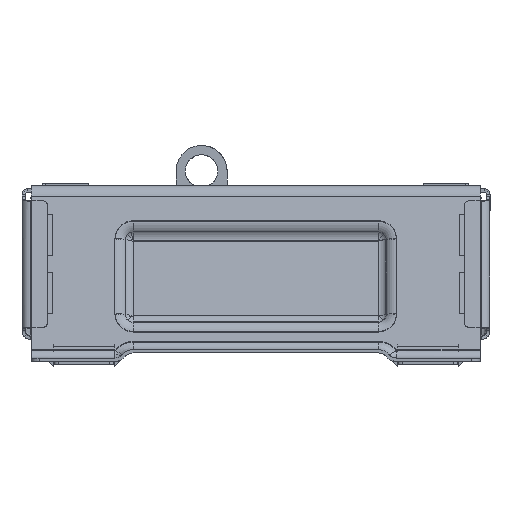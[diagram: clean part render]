
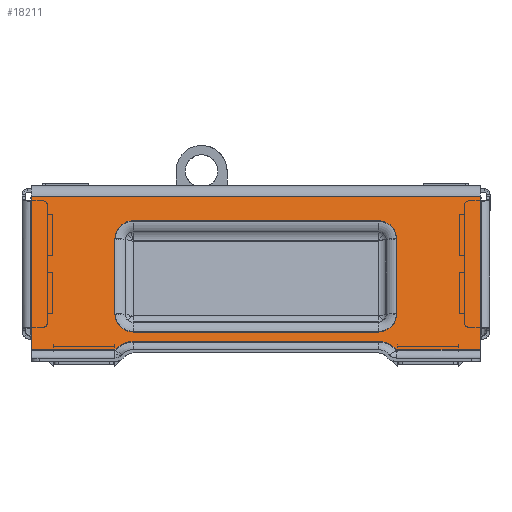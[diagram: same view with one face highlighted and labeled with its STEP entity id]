
A CAD part, left-side view. The second image highlights one B-rep face of the part: STEP entity #18211.
In plain terms, the highlighted planar face has unit normal (-0.979, 0, 0.203).
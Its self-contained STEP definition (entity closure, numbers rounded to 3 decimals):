
#18133=AXIS2_PLACEMENT_3D('Plane Axis2P3D',#18130,#18131,#18132) ;
#18156=AXIS2_PLACEMENT_3D('Circle Axis2P3D',#18154,#18155,$) ;
#18170=AXIS2_PLACEMENT_3D('Circle Axis2P3D',#18168,#18169,$) ;
#18184=AXIS2_PLACEMENT_3D('Circle Axis2P3D',#18182,#18183,$) ;
#18198=AXIS2_PLACEMENT_3D('Circle Axis2P3D',#18196,#18197,$) ;
#16675=CARTESIAN_POINT('Vertex',(-493.009,-526.85,9.683)) ;
#16678=CARTESIAN_POINT('Line Origine',(-483.653,-526.85,54.853)) ;
#16682=CARTESIAN_POINT('Vertex',(-474.296,-526.85,100.023)) ;
#17123=CARTESIAN_POINT('Vertex',(-474.296,-790.85,100.023)) ;
#17126=CARTESIAN_POINT('Line Origine',(-483.653,-790.85,54.853)) ;
#17130=CARTESIAN_POINT('Vertex',(-493.009,-790.85,9.683)) ;
#17451=CARTESIAN_POINT('Vertex',(-493.009,-576.127,9.683)) ;
#17616=CARTESIAN_POINT('Vertex',(-493.009,-741.574,9.683)) ;
#17893=CARTESIAN_POINT('Line Origine',(-493.009,-658.85,9.683)) ;
#17962=CARTESIAN_POINT('Control Point',(-491.974,-586.85,14.683)) ;
#17963=CARTESIAN_POINT('Control Point',(-491.974,-584.39,14.683)) ;
#17964=CARTESIAN_POINT('Control Point',(-492.086,-581.93,14.143)) ;
#17965=CARTESIAN_POINT('Control Point',(-492.31,-579.641,13.06)) ;
#17966=CARTESIAN_POINT('Control Point',(-492.626,-577.679,11.533)) ;
#17967=CARTESIAN_POINT('Control Point',(-493.009,-576.127,9.683)) ;
#17968=CARTESIAN_POINT('Vertex',(-491.974,-586.85,14.683)) ;
#17994=CARTESIAN_POINT('Line Origine',(-491.974,-658.85,14.683)) ;
#17998=CARTESIAN_POINT('Vertex',(-491.974,-730.85,14.683)) ;
#18069=CARTESIAN_POINT('Control Point',(-493.009,-741.574,9.683)) ;
#18070=CARTESIAN_POINT('Control Point',(-492.626,-740.022,11.533)) ;
#18071=CARTESIAN_POINT('Control Point',(-492.31,-738.06,13.06)) ;
#18072=CARTESIAN_POINT('Control Point',(-492.086,-735.771,14.143)) ;
#18073=CARTESIAN_POINT('Control Point',(-491.974,-733.311,14.683)) ;
#18074=CARTESIAN_POINT('Control Point',(-491.974,-730.85,14.683)) ;
#18083=CARTESIAN_POINT('Line Origine',(-493.009,-658.85,9.683)) ;
#18118=CARTESIAN_POINT('Line Origine',(-474.296,-658.85,100.023)) ;
#18130=CARTESIAN_POINT('Axis2P3D Location',(-472.976,-658.85,106.4)) ;
#18145=CARTESIAN_POINT('Line Origine',(-477.292,-658.85,85.561)) ;
#18149=CARTESIAN_POINT('Vertex',(-477.292,-730.85,85.561)) ;
#18151=CARTESIAN_POINT('Vertex',(-477.292,-586.85,85.561)) ;
#18154=CARTESIAN_POINT('Axis2P3D Location',(-479.467,-730.85,75.06)) ;
#18158=CARTESIAN_POINT('Vertex',(-479.467,-741.574,75.06)) ;
#18161=CARTESIAN_POINT('Line Origine',(-484.024,-741.574,53.06)) ;
#18165=CARTESIAN_POINT('Vertex',(-488.581,-741.574,31.06)) ;
#18168=CARTESIAN_POINT('Axis2P3D Location',(-488.581,-730.85,31.06)) ;
#18172=CARTESIAN_POINT('Vertex',(-490.756,-730.85,20.559)) ;
#18175=CARTESIAN_POINT('Line Origine',(-490.756,-658.85,20.559)) ;
#18179=CARTESIAN_POINT('Vertex',(-490.756,-586.85,20.559)) ;
#18182=CARTESIAN_POINT('Axis2P3D Location',(-488.581,-586.85,31.06)) ;
#18186=CARTESIAN_POINT('Vertex',(-488.581,-576.127,31.06)) ;
#18189=CARTESIAN_POINT('Line Origine',(-484.024,-576.127,53.06)) ;
#18193=CARTESIAN_POINT('Vertex',(-479.467,-576.127,75.06)) ;
#18196=CARTESIAN_POINT('Axis2P3D Location',(-479.467,-586.85,75.06)) ;
#16679=DIRECTION('Vector Direction',(-0.203,0.,-0.979)) ;
#17127=DIRECTION('Vector Direction',(-0.203,0.,-0.979)) ;
#17894=DIRECTION('Vector Direction',(0.,1.,0.)) ;
#17995=DIRECTION('Vector Direction',(0.,-1.,0.)) ;
#18084=DIRECTION('Vector Direction',(0.,1.,0.)) ;
#18119=DIRECTION('Vector Direction',(0.,1.,0.)) ;
#18131=DIRECTION('Axis2P3D Direction',(0.979,0.,-0.203)) ;
#18132=DIRECTION('Axis2P3D XDirection',(-0.203,0.,-0.979)) ;
#18146=DIRECTION('Vector Direction',(0.,-1.,0.)) ;
#18155=DIRECTION('Axis2P3D Direction',(0.979,0.,-0.203)) ;
#18162=DIRECTION('Vector Direction',(-0.203,0.,-0.979)) ;
#18169=DIRECTION('Axis2P3D Direction',(0.979,0.,-0.203)) ;
#18176=DIRECTION('Vector Direction',(0.,1.,0.)) ;
#18183=DIRECTION('Axis2P3D Direction',(0.979,0.,-0.203)) ;
#18190=DIRECTION('Vector Direction',(0.203,0.,0.979)) ;
#18197=DIRECTION('Axis2P3D Direction',(0.979,0.,-0.203)) ;
#16680=VECTOR('Line Direction',#16679,1.) ;
#17128=VECTOR('Line Direction',#17127,1.) ;
#17895=VECTOR('Line Direction',#17894,1.) ;
#17996=VECTOR('Line Direction',#17995,1.) ;
#18085=VECTOR('Line Direction',#18084,1.) ;
#18120=VECTOR('Line Direction',#18119,1.) ;
#18147=VECTOR('Line Direction',#18146,1.) ;
#18163=VECTOR('Line Direction',#18162,1.) ;
#18177=VECTOR('Line Direction',#18176,1.) ;
#18191=VECTOR('Line Direction',#18190,1.) ;
#18136=ORIENTED_EDGE('',*,*,#16684,.T.) ;
#18137=ORIENTED_EDGE('',*,*,#17897,.F.) ;
#18138=ORIENTED_EDGE('',*,*,#17970,.F.) ;
#18139=ORIENTED_EDGE('',*,*,#18000,.F.) ;
#18140=ORIENTED_EDGE('',*,*,#18075,.F.) ;
#18141=ORIENTED_EDGE('',*,*,#18087,.F.) ;
#18142=ORIENTED_EDGE('',*,*,#17132,.F.) ;
#18143=ORIENTED_EDGE('',*,*,#18122,.T.) ;
#18202=ORIENTED_EDGE('',*,*,#18153,.F.) ;
#18203=ORIENTED_EDGE('',*,*,#18160,.F.) ;
#18204=ORIENTED_EDGE('',*,*,#18167,.F.) ;
#18205=ORIENTED_EDGE('',*,*,#18174,.F.) ;
#18206=ORIENTED_EDGE('',*,*,#18181,.F.) ;
#18207=ORIENTED_EDGE('',*,*,#18188,.F.) ;
#18208=ORIENTED_EDGE('',*,*,#18195,.F.) ;
#18209=ORIENTED_EDGE('',*,*,#18200,.F.) ;
#18210=FACE_BOUND('',#18201,.T.) ;
#18211=ADVANCED_FACE('\X2\4E2D5BBD8F664E3B9A7E9A765E9590E8652F67B6710A63A5603B6210\X0\-.1\\SHT0015987.1\\SHT0016188-\X2\4E2D5BBD8F664E3B9A7E9A76524D4FA794A391D1\X0\',(#18144,#18210),#18134,.F.) ;
#17961=B_SPLINE_CURVE_WITH_KNOTS('',5,(#17962,#17963,#17964,#17965,#17966,#17967),.UNSPECIFIED.,.F.,.U.,(6,6),(37.402,46.794),.UNSPECIFIED.) ;
#18068=B_SPLINE_CURVE_WITH_KNOTS('',5,(#18069,#18070,#18071,#18072,#18073,#18074),.UNSPECIFIED.,.F.,.U.,(6,6),(23.234,32.625),.UNSPECIFIED.) ;
#18157=CIRCLE('generated circle',#18156,10.724) ;
#18171=CIRCLE('generated circle',#18170,10.724) ;
#18185=CIRCLE('generated circle',#18184,10.724) ;
#18199=CIRCLE('generated circle',#18198,10.724) ;
#16684=EDGE_CURVE('',#16683,#16676,#16681,.T.) ;
#17132=EDGE_CURVE('',#17124,#17131,#17129,.T.) ;
#17897=EDGE_CURVE('',#17452,#16676,#17896,.T.) ;
#17970=EDGE_CURVE('',#17969,#17452,#17961,.T.) ;
#18000=EDGE_CURVE('',#17999,#17969,#17997,.F.) ;
#18075=EDGE_CURVE('',#17617,#17999,#18068,.T.) ;
#18087=EDGE_CURVE('',#17131,#17617,#18086,.T.) ;
#18122=EDGE_CURVE('',#17124,#16683,#18121,.T.) ;
#18153=EDGE_CURVE('',#18150,#18152,#18148,.F.) ;
#18160=EDGE_CURVE('',#18159,#18150,#18157,.F.) ;
#18167=EDGE_CURVE('',#18166,#18159,#18164,.F.) ;
#18174=EDGE_CURVE('',#18173,#18166,#18171,.F.) ;
#18181=EDGE_CURVE('',#18180,#18173,#18178,.F.) ;
#18188=EDGE_CURVE('',#18187,#18180,#18185,.F.) ;
#18195=EDGE_CURVE('',#18194,#18187,#18192,.F.) ;
#18200=EDGE_CURVE('',#18152,#18194,#18199,.F.) ;
#18135=EDGE_LOOP('',(#18136,#18137,#18138,#18139,#18140,#18141,#18142,#18143)) ;
#18201=EDGE_LOOP('',(#18202,#18203,#18204,#18205,#18206,#18207,#18208,#18209)) ;
#18144=FACE_OUTER_BOUND('',#18135,.T.) ;
#16681=LINE('Line',#16678,#16680) ;
#17129=LINE('Line',#17126,#17128) ;
#17896=LINE('Line',#17893,#17895) ;
#17997=LINE('Line',#17994,#17996) ;
#18086=LINE('Line',#18083,#18085) ;
#18121=LINE('Line',#18118,#18120) ;
#18148=LINE('Line',#18145,#18147) ;
#18164=LINE('Line',#18161,#18163) ;
#18178=LINE('Line',#18175,#18177) ;
#18192=LINE('Line',#18189,#18191) ;
#18134=PLANE('Plane',#18133) ;
#16676=VERTEX_POINT('',#16675) ;
#16683=VERTEX_POINT('',#16682) ;
#17124=VERTEX_POINT('',#17123) ;
#17131=VERTEX_POINT('',#17130) ;
#17452=VERTEX_POINT('',#17451) ;
#17617=VERTEX_POINT('',#17616) ;
#17969=VERTEX_POINT('',#17968) ;
#17999=VERTEX_POINT('',#17998) ;
#18150=VERTEX_POINT('',#18149) ;
#18152=VERTEX_POINT('',#18151) ;
#18159=VERTEX_POINT('',#18158) ;
#18166=VERTEX_POINT('',#18165) ;
#18173=VERTEX_POINT('',#18172) ;
#18180=VERTEX_POINT('',#18179) ;
#18187=VERTEX_POINT('',#18186) ;
#18194=VERTEX_POINT('',#18193) ;
